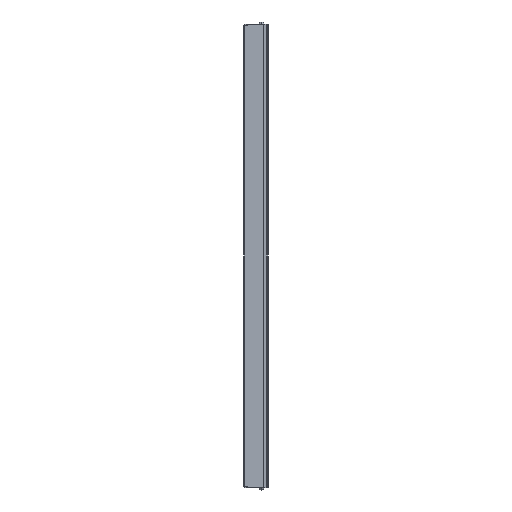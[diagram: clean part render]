
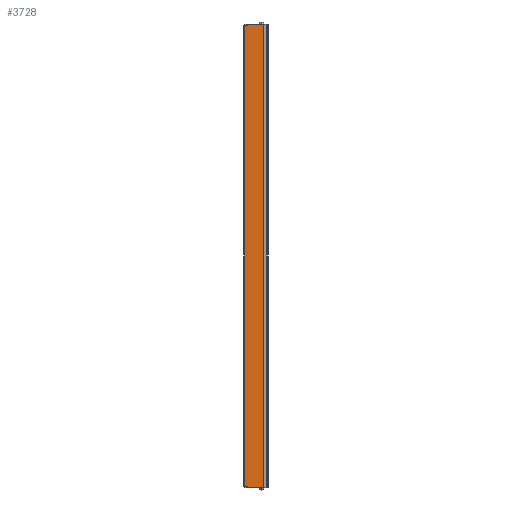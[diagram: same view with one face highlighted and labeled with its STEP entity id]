
A CAD part, left-side view. The second image highlights one B-rep face of the part: STEP entity #3728.
In plain terms, the highlighted planar face has unit normal (-1, 0, 0).
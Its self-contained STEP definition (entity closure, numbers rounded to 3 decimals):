
#185=DIRECTION('',(0.,1.,0.));
#186=VECTOR('',#185,3.3);
#187=CARTESIAN_POINT('',(-19.,13.2,252.));
#188=LINE('',#187,#186);
#417=DIRECTION('',(0.,0.,-1.));
#418=VECTOR('',#417,1.);
#419=CARTESIAN_POINT('',(-19.,13.2,-252.));
#420=LINE('',#419,#418);
#429=DIRECTION('',(0.,1.,0.));
#430=VECTOR('',#429,3.3);
#431=CARTESIAN_POINT('',(-19.,13.2,-252.));
#432=LINE('',#431,#430);
#433=DIRECTION('',(0.,0.,1.));
#434=VECTOR('',#433,1.);
#435=CARTESIAN_POINT('',(-19.,13.2,252.));
#436=LINE('',#435,#434);
#441=DIRECTION('',(0.,0.,1.));
#442=VECTOR('',#441,506.);
#443=CARTESIAN_POINT('',(-19.,-4.3,-253.));
#444=LINE('',#443,#442);
#989=DIRECTION('',(0.,-1.,0.));
#990=VECTOR('',#989,17.5);
#991=CARTESIAN_POINT('',(-19.,13.2,-253.));
#992=LINE('',#991,#990);
#2085=DIRECTION('',(0.,1.,0.));
#2086=VECTOR('',#2085,17.5);
#2087=CARTESIAN_POINT('',(-19.,-4.3,253.));
#2088=LINE('',#2087,#2086);
#2321=DIRECTION('',(0.,0.,-1.));
#2322=VECTOR('',#2321,504.);
#2323=CARTESIAN_POINT('',(-19.,16.5,252.));
#2324=LINE('',#2323,#2322);
#2357=CARTESIAN_POINT('',(-19.,16.5,-252.));
#2358=VERTEX_POINT('',#2357);
#2367=CARTESIAN_POINT('',(-19.,16.5,252.));
#2368=VERTEX_POINT('',#2367);
#2441=CARTESIAN_POINT('',(-19.,13.2,253.));
#2442=VERTEX_POINT('',#2441);
#2647=CARTESIAN_POINT('',(-19.,-4.3,253.));
#2649=VERTEX_POINT('',#2647);
#2729=CARTESIAN_POINT('',(-19.,13.2,252.));
#2731=VERTEX_POINT('',#2729);
#2775=CARTESIAN_POINT('',(-19.,13.2,-253.));
#2777=VERTEX_POINT('',#2775);
#2781=CARTESIAN_POINT('',(-19.,-4.3,-253.));
#2782=VERTEX_POINT('',#2781);
#3011=CARTESIAN_POINT('',(-19.,13.2,-252.));
#3012=VERTEX_POINT('',#3011);
#3709=CARTESIAN_POINT('',(-19.,16.5,-252.));
#3710=DIRECTION('',(-1.,0.,0.));
#3711=DIRECTION('',(0.,-1.,0.));
#3712=AXIS2_PLACEMENT_3D('',#3709,#3710,#3711);
#3713=PLANE('',#3712);
#3715=ORIENTED_EDGE('',*,*,#3714,.F.);
#3717=ORIENTED_EDGE('',*,*,#3716,.F.);
#3718=ORIENTED_EDGE('',*,*,#3700,.F.);
#3719=ORIENTED_EDGE('',*,*,#3126,.T.);
#3721=ORIENTED_EDGE('',*,*,#3720,.F.);
#3722=ORIENTED_EDGE('',*,*,#3356,.F.);
#3723=ORIENTED_EDGE('',*,*,#3545,.T.);
#3725=ORIENTED_EDGE('',*,*,#3724,.F.);
#3726=EDGE_LOOP('',(#3715,#3717,#3718,#3719,#3721,#3722,#3723,#3725));
#3727=FACE_OUTER_BOUND('',#3726,.F.);
#3126=EDGE_CURVE('',#3012,#2358,#432,.T.);
#3356=EDGE_CURVE('',#2731,#2368,#188,.T.);
#3545=EDGE_CURVE('',#2731,#2442,#436,.T.);
#3700=EDGE_CURVE('',#3012,#2777,#420,.T.);
#3714=EDGE_CURVE('',#2782,#2649,#444,.T.);
#3716=EDGE_CURVE('',#2777,#2782,#992,.T.);
#3720=EDGE_CURVE('',#2368,#2358,#2324,.T.);
#3724=EDGE_CURVE('',#2649,#2442,#2088,.T.);
#3728=ADVANCED_FACE('',(#3727),#3713,.T.);
